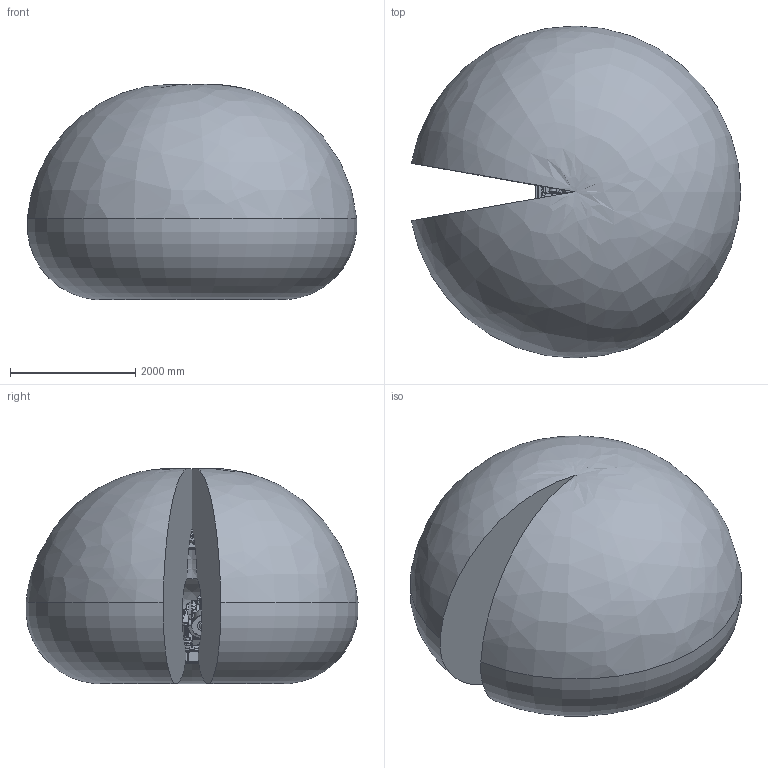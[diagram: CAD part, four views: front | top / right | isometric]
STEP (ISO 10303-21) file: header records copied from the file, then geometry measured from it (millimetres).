
FILE_DESCRIPTION(/* description */ (''),/* implementation_level */ '2;1');
FILE_NAME(/* name */ 'E:\组装完成的图纸\IRB 6700\IRB 6700-235-2.65\IRB 6700-235-2.65(带工作域).stp',/* time_stamp */ '2023-11-04T19:41:51+08:00',/* author */ ('Administrator'),/* organization */ (''),/* preprocessor_version */ 'ST-DEVELOPER v16.5',/* originating_system */ 'Autodesk Inventor 2017',/* authorisation */ '');
FILE_SCHEMA (('AUTOMOTIVE_DESIGN { 1 0 10303 214 3 1 1 }'));
Products named in the file (17): 部件4; IRB6700_235-265_IRC5_rev00_LOGO1_CAD; IRB6700_235-265_IRC5_rev00_LOGO2_CAD; IRB6700_235-265_IRC5_rev00_LOGO3_CAD; IRB6700_235-265_IRC5_rev01_BASE_CAD; IRB6700_235-265_IRC5_rev01_LINK02m_CABLE; IRB6700_235-265_IRC5_rev02_LINK01m_CABLE; IRB6700_235-265_IRC5_rev02_LINK03m_CABLE; IRB6700_235-265_IRC5_rev02_LINK06_CAD; IRB6700_235-265_IRC5_rev03_LINK02_CAD; IRB6700_235-265_IRC5_rev03_LINK04_CAD; IRB6700_235-265_IRC5_rev03_ROD_CAD; IRB6700_235-265_IRC5_rev04_LINK05_CAD; IRB6700_235-265_IRC5_rev05_LINK03_CAD; IRB6700_235-265_IRC5_rev06_CYLINDER_CAD; IRB6700_235-265_IRC5_rev06_LINK01_CAD; IRB6700_265_Working_space
Assembly tree (16 placements, depth 2):
  部件4
    IRB6700_235-265_IRC5_rev00_LOGO1_CAD
    IRB6700_235-265_IRC5_rev00_LOGO2_CAD
    IRB6700_235-265_IRC5_rev00_LOGO3_CAD
    IRB6700_235-265_IRC5_rev01_BASE_CAD
    IRB6700_235-265_IRC5_rev01_LINK02m_CABLE
    IRB6700_235-265_IRC5_rev02_LINK01m_CABLE
    IRB6700_235-265_IRC5_rev02_LINK03m_CABLE
    IRB6700_235-265_IRC5_rev02_LINK06_CAD
    IRB6700_235-265_IRC5_rev03_LINK02_CAD
    IRB6700_235-265_IRC5_rev03_LINK04_CAD
    IRB6700_235-265_IRC5_rev03_ROD_CAD
    IRB6700_235-265_IRC5_rev04_LINK05_CAD
    IRB6700_235-265_IRC5_rev05_LINK03_CAD
    IRB6700_235-265_IRC5_rev06_CYLINDER_CAD
    IRB6700_235-265_IRC5_rev06_LINK01_CAD
    IRB6700_265_Working_space
Bounding box: 5259.74 x 5300 x 3434.37 mm (x, y, z)
Volume: 49735064374 mm3; surface area: 103256716.3 mm2
Topology: 17 solids, 19 shells, 5415 faces, 14376 edges, 9312 vertices
Faces by surface type: plane 3330, cylinder 1081, cone 523, bspline 459, torus 17, sphere 5
Full cylindrical faces by diameter (mm): 5 x23, 6 x14, 6.5 x4, 6.6 x9, 6.8 x12, 7 x16, 7.1 x2, 7.5 x8, 8 x2, 8.3 x4, 8.5 x4, 8.6 x4, 8.8 x4, 9 x5, 10 x4, 10.2 x37, 11.05 x4, 12 x1, 12.5 x2, 13 x1, 14 x6, 14.385 x3, 16 x1, 16.3 x1, 17.5 x8, 17.583 x1, 17.6 x1, 17.608 x1, 18 x15, 18.2 x4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
Entity records: 233200 total; most frequent: CARTESIAN_POINT 103083, ORIENTED_EDGE 27156, DIRECTION 25271, EDGE_CURVE 13578, VERTEX_POINT 9095, AXIS2_PLACEMENT_3D 8526, LINE 8219, VECTOR 8219
